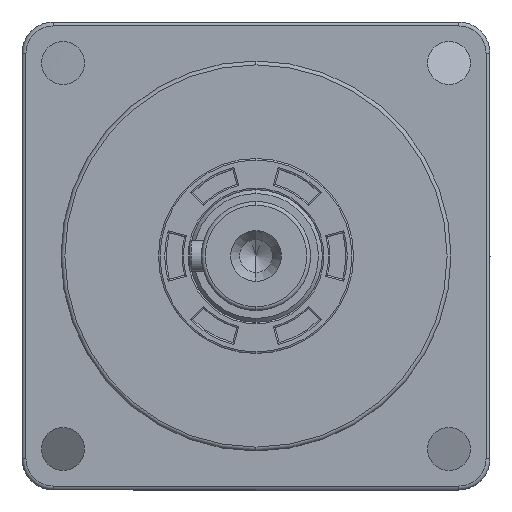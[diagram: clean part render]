
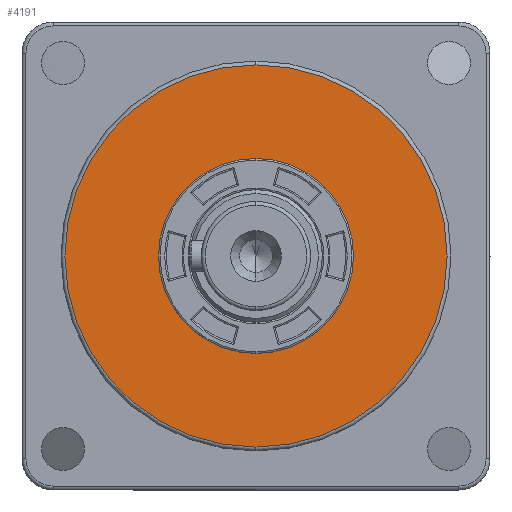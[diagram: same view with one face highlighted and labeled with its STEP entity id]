
A CAD part, left-side view. The second image highlights one B-rep face of the part: STEP entity #4191.
In plain terms, the highlighted planar face has unit normal (-1, 0, 0).
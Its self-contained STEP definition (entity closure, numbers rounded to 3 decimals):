
#44 = ORIENTED_EDGE ( 'NONE', *, *, #273, .T. ) ;
#233 = EDGE_CURVE ( 'NONE', #3727, #13493, #6886, .T. ) ;
#273 = EDGE_CURVE ( 'NONE', #10444, #9209, #2823, .T. ) ;
#414 = DIRECTION ( 'NONE',  ( 0., 0., 1. ) ) ;
#466 = CARTESIAN_POINT ( 'NONE',  ( -3., 0., 12.5 ) ) ;
#588 = CARTESIAN_POINT ( 'NONE',  ( -3., 0., -12.5 ) ) ;
#1910 = EDGE_LOOP ( 'NONE', ( #44, #6281 ) ) ;
#1932 = CARTESIAN_POINT ( 'NONE',  ( -3., 0., 0. ) ) ;
#2231 = EDGE_CURVE ( 'NONE', #13493, #3727, #2302, .T. ) ;
#2302 = CIRCLE ( 'NONE', #12304, 24.5 ) ;
#2721 = CARTESIAN_POINT ( 'NONE',  ( -3., 0., 0. ) ) ;
#2787 = FACE_OUTER_BOUND ( 'NONE', #13880, .T. ) ;
#2823 = CIRCLE ( 'NONE', #6646, 12.5 ) ;
#3112 = AXIS2_PLACEMENT_3D ( 'NONE', #9020, #11008, #10019 ) ;
#3194 = EDGE_CURVE ( 'NONE', #9209, #10444, #4356, .T. ) ;
#3620 = CARTESIAN_POINT ( 'NONE',  ( -3., 0., 0. ) ) ;
#3727 = VERTEX_POINT ( 'NONE', #8775 ) ;
#4091 = DIRECTION ( 'NONE',  ( 0., 0., -1. ) ) ;
#4191 = ADVANCED_FACE ( 'NONE', ( #2787, #13529 ), #5677, .T. ) ;
#4356 = CIRCLE ( 'NONE', #13883, 12.5 ) ;
#4401 = ORIENTED_EDGE ( 'NONE', *, *, #233, .T. ) ;
#4810 = ORIENTED_EDGE ( 'NONE', *, *, #2231, .T. ) ;
#4908 = AXIS2_PLACEMENT_3D ( 'NONE', #2721, #10270, #414 ) ;
#5677 = PLANE ( 'NONE',  #3112 ) ;
#6083 = CARTESIAN_POINT ( 'NONE',  ( -3., 0., 0. ) ) ;
#6281 = ORIENTED_EDGE ( 'NONE', *, *, #3194, .T. ) ;
#6446 = CARTESIAN_POINT ( 'NONE',  ( -3., 0., 24.5 ) ) ;
#6646 = AXIS2_PLACEMENT_3D ( 'NONE', #6083, #6972, #11437 ) ;
#6886 = CIRCLE ( 'NONE', #4908, 24.5 ) ;
#6972 = DIRECTION ( 'NONE',  ( 1., 0., 0. ) ) ;
#8036 = DIRECTION ( 'NONE',  ( -1., 0., 0. ) ) ;
#8775 = CARTESIAN_POINT ( 'NONE',  ( -3., 0., -24.5 ) ) ;
#9020 = CARTESIAN_POINT ( 'NONE',  ( -3., 0., 0. ) ) ;
#9209 = VERTEX_POINT ( 'NONE', #466 ) ;
#10019 = DIRECTION ( 'NONE',  ( 0., 0., 1. ) ) ;
#10270 = DIRECTION ( 'NONE',  ( -1., 0., 0. ) ) ;
#10444 = VERTEX_POINT ( 'NONE', #588 ) ;
#11008 = DIRECTION ( 'NONE',  ( -1., 0., 0. ) ) ;
#11161 = DIRECTION ( 'NONE',  ( 0., 0., 1. ) ) ;
#11437 = DIRECTION ( 'NONE',  ( 0., 0., -1. ) ) ;
#11778 = DIRECTION ( 'NONE',  ( 1., 0., 0. ) ) ;
#12304 = AXIS2_PLACEMENT_3D ( 'NONE', #3620, #8036, #11161 ) ;
#13493 = VERTEX_POINT ( 'NONE', #6446 ) ;
#13529 = FACE_BOUND ( 'NONE', #1910, .T. ) ;
#13880 = EDGE_LOOP ( 'NONE', ( #4810, #4401 ) ) ;
#13883 = AXIS2_PLACEMENT_3D ( 'NONE', #1932, #11778, #4091 ) ;
